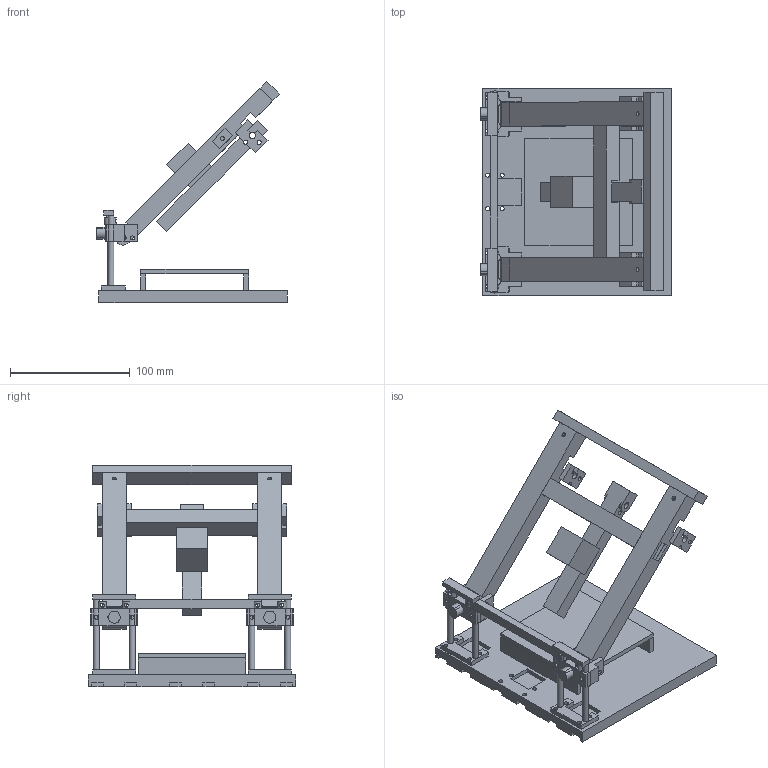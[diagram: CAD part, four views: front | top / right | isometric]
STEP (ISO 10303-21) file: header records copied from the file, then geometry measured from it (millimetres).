
FILE_DESCRIPTION(('Open CASCADE Model'),'2;1');
FILE_NAME('F09_asm_midfold','2026-11-15T22:32:16',('Author'),( 'Open CASCADE'),'Open CASCADE STEP processor 8.0','build123d', 'Unknown');
FILE_SCHEMA(('AUTOMOTIVE_DESIGN { 1 0 10303 214 1 1 1 1 }'));
Length unit declared in the file: millimetre
Products named in the file (10): F09_asm_midfold; BASE; BED; TWR_1; CAR_1; SYNC; COL_1; XBAR; BRG; ARM
Assembly tree (12 placements, depth 2):
  F09_asm_midfold
    BASE
    BED
    TWR_1  x2
    CAR_1  x2
    SYNC
    COL_1  x2
    XBAR
    BRG
    ARM
Bounding box: 159.5 x 173.5 x 184.81 mm (x, y, z)
Volume: 489199.8 mm3; surface area: 181632.6 mm2
Topology: 12 solids, 12 shells, 507 faces, 1412 edges, 928 vertices
Faces by surface type: plane 385, cylinder 122
Full cylindrical faces by diameter (mm): 3.4 x65, 5 x4, 5.3 x7, 5.4 x4
Entity records: 28284 total; most frequent: CARTESIAN_POINT 10136, DIRECTION 3086, LINE 1934, VECTOR 1934, ORIENTED_EDGE 1852, PCURVE 1852, DEFINITIONAL_REPRESENTATION 1852, EDGE_CURVE 926
